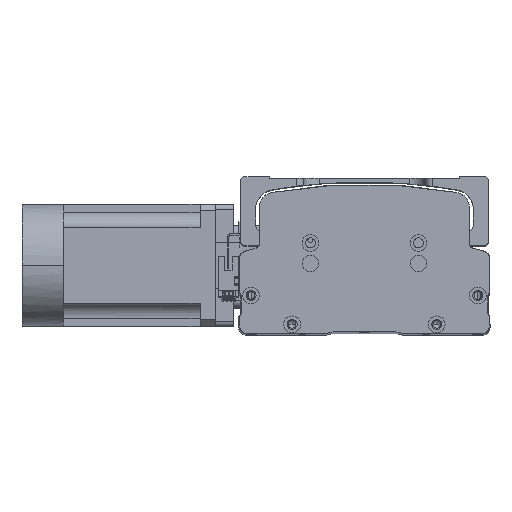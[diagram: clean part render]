
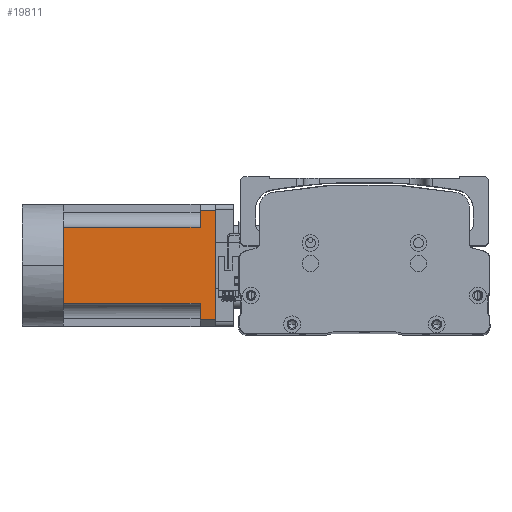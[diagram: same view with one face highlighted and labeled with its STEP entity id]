
A CAD part, top view. The second image highlights one B-rep face of the part: STEP entity #19811.
In plain terms, the highlighted planar face has unit normal (0, 0.003, 1) as drawn and (0, 0, -1) by its records, which use the part's own axes.
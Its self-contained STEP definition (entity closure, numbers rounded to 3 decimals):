
#824 = CARTESIAN_POINT ( 'NONE',  ( -36., -27., -40. ) ) ;
#1423 = VECTOR ( 'NONE', #18383, 1000. ) ;
#1631 = ORIENTED_EDGE ( 'NONE', *, *, #10725, .T. ) ;
#2128 = VECTOR ( 'NONE', #36756, 1000. ) ;
#2372 = LINE ( 'NONE', #17126, #10644 ) ;
#3031 = CARTESIAN_POINT ( 'NONE',  ( 36., 90., -40. ) ) ;
#3207 = CARTESIAN_POINT ( 'NONE',  ( 25., 90., -40. ) ) ;
#4292 = VECTOR ( 'NONE', #21161, 1000. ) ;
#4581 = VERTEX_POINT ( 'NONE', #6293 ) ;
#6293 = CARTESIAN_POINT ( 'NONE',  ( -25., 0., -40. ) ) ;
#7226 = ORIENTED_EDGE ( 'NONE', *, *, #10656, .T. ) ;
#7607 = CARTESIAN_POINT ( 'NONE',  ( -40., 100., -40. ) ) ;
#10644 = VECTOR ( 'NONE', #45355, 1000. ) ;
#10656 = EDGE_CURVE ( 'NONE', #13190, #15758, #28662, .T. ) ;
#10725 = EDGE_CURVE ( 'NONE', #13250, #41429, #36935, .T. ) ;
#11489 = FACE_OUTER_BOUND ( 'NONE', #28891, .T. ) ;
#11560 = LINE ( 'NONE', #18963, #2128 ) ;
#11777 = VERTEX_POINT ( 'NONE', #18136 ) ;
#12729 = ORIENTED_EDGE ( 'NONE', *, *, #16347, .T. ) ;
#12956 = ORIENTED_EDGE ( 'NONE', *, *, #31675, .T. ) ;
#13190 = VERTEX_POINT ( 'NONE', #3031 ) ;
#13250 = VERTEX_POINT ( 'NONE', #45971 ) ;
#14639 = EDGE_CURVE ( 'NONE', #15758, #23656, #2372, .T. ) ;
#14751 = LINE ( 'NONE', #31276, #32529 ) ;
#15758 = VERTEX_POINT ( 'NONE', #3207 ) ;
#16347 = EDGE_CURVE ( 'NONE', #11777, #13250, #18260, .T. ) ;
#17126 = CARTESIAN_POINT ( 'NONE',  ( 25., -27., -40. ) ) ;
#17562 = CARTESIAN_POINT ( 'NONE',  ( -40., 0., -40. ) ) ;
#17898 = AXIS2_PLACEMENT_3D ( 'NONE', #20916, #45697, #24515 ) ;
#17998 = ORIENTED_EDGE ( 'NONE', *, *, #26724, .T. ) ;
#18109 = DIRECTION ( 'NONE',  ( -1., 0., 0. ) ) ;
#18136 = CARTESIAN_POINT ( 'NONE',  ( -25., 90., -40. ) ) ;
#18255 = CARTESIAN_POINT ( 'NONE',  ( 0., 0., -40. ) ) ;
#18260 = LINE ( 'NONE', #21780, #43239 ) ;
#18383 = DIRECTION ( 'NONE',  ( -1., 0., 0. ) ) ;
#18963 = CARTESIAN_POINT ( 'NONE',  ( 36., -27., -40. ) ) ;
#19811 = ADVANCED_FACE ( 'NONE', ( #11489 ), #41972, .T. ) ;
#20916 = CARTESIAN_POINT ( 'NONE',  ( -40., -27., -40. ) ) ;
#21161 = DIRECTION ( 'NONE',  ( -1., 0., 0. ) ) ;
#21780 = CARTESIAN_POINT ( 'NONE',  ( -40., 90., -40. ) ) ;
#22464 = VECTOR ( 'NONE', #28869, 1000. ) ;
#23232 = LINE ( 'NONE', #17562, #4292 ) ;
#23656 = VERTEX_POINT ( 'NONE', #37044 ) ;
#24031 = VERTEX_POINT ( 'NONE', #18255 ) ;
#24515 = DIRECTION ( 'NONE',  ( -1., 0., 0. ) ) ;
#24518 = VERTEX_POINT ( 'NONE', #42416 ) ;
#25211 = EDGE_CURVE ( 'NONE', #24518, #13190, #11560, .T. ) ;
#25364 = DIRECTION ( 'NONE',  ( -1., 0., 0. ) ) ;
#26724 = EDGE_CURVE ( 'NONE', #4581, #11777, #14751, .T. ) ;
#27212 = CARTESIAN_POINT ( 'NONE',  ( -36., 100., -40. ) ) ;
#28662 = LINE ( 'NONE', #43204, #1423 ) ;
#28869 = DIRECTION ( 'NONE',  ( -1., 0., 0. ) ) ;
#28891 = EDGE_LOOP ( 'NONE', ( #34729, #36012, #7226, #29258, #39429, #12956, #17998, #12729, #1631 ) ) ;
#29258 = ORIENTED_EDGE ( 'NONE', *, *, #14639, .T. ) ;
#30729 = VECTOR ( 'NONE', #18109, 1000. ) ;
#31276 = CARTESIAN_POINT ( 'NONE',  ( -25., -27., -40. ) ) ;
#31675 = EDGE_CURVE ( 'NONE', #24031, #4581, #23232, .T. ) ;
#31917 = LINE ( 'NONE', #7607, #22464 ) ;
#32529 = VECTOR ( 'NONE', #34808, 1000. ) ;
#34729 = ORIENTED_EDGE ( 'NONE', *, *, #35494, .F. ) ;
#34808 = DIRECTION ( 'NONE',  ( 0., 1., 0. ) ) ;
#35494 = EDGE_CURVE ( 'NONE', #24518, #41429, #31917, .T. ) ;
#35845 = VECTOR ( 'NONE', #36208, 1000. ) ;
#36012 = ORIENTED_EDGE ( 'NONE', *, *, #25211, .T. ) ;
#36208 = DIRECTION ( 'NONE',  ( 0., 1., 0. ) ) ;
#36756 = DIRECTION ( 'NONE',  ( 0., -1., 0. ) ) ;
#36935 = LINE ( 'NONE', #824, #35845 ) ;
#37044 = CARTESIAN_POINT ( 'NONE',  ( 25., 0., -40. ) ) ;
#39429 = ORIENTED_EDGE ( 'NONE', *, *, #45616, .T. ) ;
#40117 = LINE ( 'NONE', #42935, #30729 ) ;
#41429 = VERTEX_POINT ( 'NONE', #27212 ) ;
#41972 = PLANE ( 'NONE',  #17898 ) ;
#42416 = CARTESIAN_POINT ( 'NONE',  ( 36., 100., -40. ) ) ;
#42935 = CARTESIAN_POINT ( 'NONE',  ( -40., 0., -40. ) ) ;
#43204 = CARTESIAN_POINT ( 'NONE',  ( -40., 90., -40. ) ) ;
#43239 = VECTOR ( 'NONE', #25364, 1000. ) ;
#45355 = DIRECTION ( 'NONE',  ( 0., -1., 0. ) ) ;
#45616 = EDGE_CURVE ( 'NONE', #23656, #24031, #40117, .T. ) ;
#45697 = DIRECTION ( 'NONE',  ( 0., 0., -1. ) ) ;
#45971 = CARTESIAN_POINT ( 'NONE',  ( -36., 90., -40. ) ) ;
